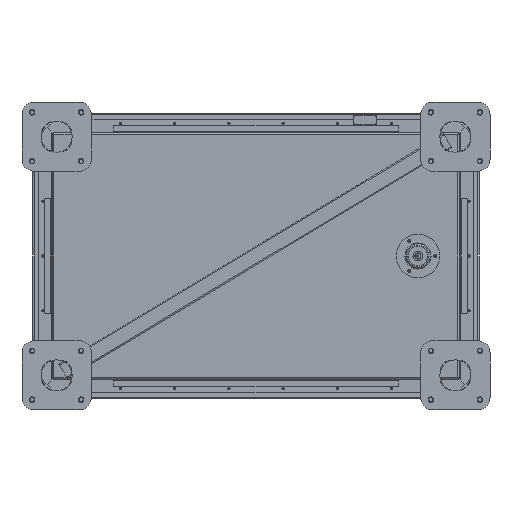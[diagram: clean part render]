
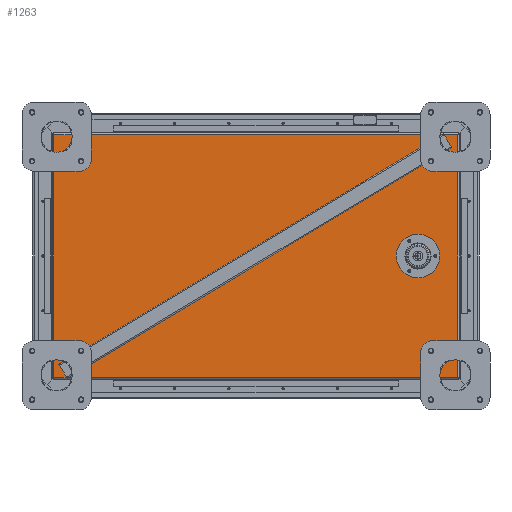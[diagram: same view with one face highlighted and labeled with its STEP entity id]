
A CAD part, front view. The second image highlights one B-rep face of the part: STEP entity #1263.
In plain terms, the highlighted planar face has unit normal (-0.018, -1, 0).
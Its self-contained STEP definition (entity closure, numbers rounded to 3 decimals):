
#459 = EDGE_CURVE ( 'NONE', #35504, #19531, #41902, .T. ) ;
#991 = AXIS2_PLACEMENT_3D ( 'NONE', #50659, #35529, #34823 ) ;
#1263 = ADVANCED_FACE ( 'NONE', ( #58126, #1603, #39860, #25832, #32436 ), #47043, .F. ) ;
#1425 = LINE ( 'NONE', #47701, #47194 ) ;
#1591 = VECTOR ( 'NONE', #56000, 1000. ) ;
#1603 = FACE_BOUND ( 'NONE', #9713, .T. ) ;
#1684 = EDGE_CURVE ( 'NONE', #37093, #34661, #33889, .T. ) ;
#2347 = CIRCLE ( 'NONE', #65434, 2.45 ) ;
#4350 = CIRCLE ( 'NONE', #43858, 30.25 ) ;
#4503 = CARTESIAN_POINT ( 'NONE',  ( 397.445, -70.656, 0. ) ) ;
#6196 = DIRECTION ( 'NONE',  ( 0.017, 1., 0. ) ) ;
#6761 = EDGE_CURVE ( 'NONE', #19531, #35504, #33862, .T. ) ;
#7026 = VERTEX_POINT ( 'NONE', #37485 ) ;
#7302 = DIRECTION ( 'NONE',  ( 1., -0.017, 0. ) ) ;
#7617 = CARTESIAN_POINT ( 'NONE',  ( 442.388, -71.441, 0. ) ) ;
#9713 = EDGE_LOOP ( 'NONE', ( #48377, #11481 ) ) ;
#10424 = CARTESIAN_POINT ( 'NONE',  ( 439.938, -71.398, 0. ) ) ;
#11481 = ORIENTED_EDGE ( 'NONE', *, *, #52406, .T. ) ;
#11828 = DIRECTION ( 'NONE',  ( 0.017, 1., 0. ) ) ;
#13066 = VERTEX_POINT ( 'NONE', #56742 ) ;
#14016 = DIRECTION ( 'NONE',  ( -1., 0.017, 0. ) ) ;
#14225 = ORIENTED_EDGE ( 'NONE', *, *, #6761, .T. ) ;
#16061 = EDGE_LOOP ( 'NONE', ( #34947, #42950 ) ) ;
#16719 = EDGE_CURVE ( 'NONE', #38715, #7026, #16862, .T. ) ;
#16862 = LINE ( 'NONE', #24165, #21104 ) ;
#16867 = CARTESIAN_POINT ( 'NONE',  ( 376.198, -70.285, 36.806 ) ) ;
#18022 = CARTESIAN_POINT ( 'NONE',  ( 373.748, -70.243, -36.806 ) ) ;
#19531 = VERTEX_POINT ( 'NONE', #7617 ) ;
#19947 = CIRCLE ( 'NONE', #44791, 30.25 ) ;
#20921 = VERTEX_POINT ( 'NONE', #21577 ) ;
#21104 = VECTOR ( 'NONE', #29748, 1000. ) ;
#21569 = EDGE_CURVE ( 'NONE', #57460, #42616, #4350, .T. ) ;
#21577 = CARTESIAN_POINT ( 'NONE',  ( -495.57, -55.069, -298. ) ) ;
#21959 = EDGE_CURVE ( 'NONE', #20921, #65442, #41688, .T. ) ;
#22179 = CARTESIAN_POINT ( 'NONE',  ( 367.199, -70.128, 0. ) ) ;
#22327 = ORIENTED_EDGE ( 'NONE', *, *, #49042, .F. ) ;
#22644 = CARTESIAN_POINT ( 'NONE',  ( 376.198, -70.285, -36.806 ) ) ;
#23003 = DIRECTION ( 'NONE',  ( -1., 0.017, 0. ) ) ;
#23607 = CARTESIAN_POINT ( 'NONE',  ( 378.648, -70.328, 36.806 ) ) ;
#24165 = CARTESIAN_POINT ( 'NONE',  ( 499.5, -72.438, 298. ) ) ;
#24888 = DIRECTION ( 'NONE',  ( -1., 0.017, 0. ) ) ;
#25512 = DIRECTION ( 'NONE',  ( 0.017, 1., 0. ) ) ;
#25832 = FACE_BOUND ( 'NONE', #16061, .T. ) ;
#27072 = DIRECTION ( 'NONE',  ( 0., 0., -1. ) ) ;
#27134 = ORIENTED_EDGE ( 'NONE', *, *, #459, .T. ) ;
#28200 = DIRECTION ( 'NONE',  ( -1., 0.017, 0. ) ) ;
#28521 = CARTESIAN_POINT ( 'NONE',  ( 499.5, -72.438, -298. ) ) ;
#28981 = VERTEX_POINT ( 'NONE', #18022 ) ;
#29387 = ORIENTED_EDGE ( 'NONE', *, *, #16719, .F. ) ;
#29748 = DIRECTION ( 'NONE',  ( 1., -0.017, 0. ) ) ;
#30068 = ORIENTED_EDGE ( 'NONE', *, *, #1684, .T. ) ;
#31064 = EDGE_CURVE ( 'NONE', #42616, #57460, #19947, .T. ) ;
#31259 = DIRECTION ( 'NONE',  ( -1., 0.017, 0. ) ) ;
#31487 = CARTESIAN_POINT ( 'NONE',  ( 499.5, -72.438, 298. ) ) ;
#31585 = CARTESIAN_POINT ( 'NONE',  ( 427.69, -71.184, 0. ) ) ;
#32436 = FACE_OUTER_BOUND ( 'NONE', #60584, .T. ) ;
#33735 = AXIS2_PLACEMENT_3D ( 'NONE', #56436, #35991, #24888 ) ;
#33862 = CIRCLE ( 'NONE', #66135, 2.45 ) ;
#33889 = CIRCLE ( 'NONE', #991, 2.45 ) ;
#34647 = CIRCLE ( 'NONE', #35171, 2.45 ) ;
#34661 = VERTEX_POINT ( 'NONE', #23607 ) ;
#34823 = DIRECTION ( 'NONE',  ( -1., 0.017, 0. ) ) ;
#34947 = ORIENTED_EDGE ( 'NONE', *, *, #21569, .T. ) ;
#35171 = AXIS2_PLACEMENT_3D ( 'NONE', #49076, #11828, #28200 ) ;
#35504 = VERTEX_POINT ( 'NONE', #66638 ) ;
#35529 = DIRECTION ( 'NONE',  ( 0.017, 1., 0. ) ) ;
#35991 = DIRECTION ( 'NONE',  ( 0.017, 1., 0. ) ) ;
#36542 = ORIENTED_EDGE ( 'NONE', *, *, #42723, .T. ) ;
#37093 = VERTEX_POINT ( 'NONE', #64764 ) ;
#37485 = CARTESIAN_POINT ( 'NONE',  ( 495.43, -72.367, 298. ) ) ;
#38473 = DIRECTION ( 'NONE',  ( -1., 0.017, 0. ) ) ;
#38715 = VERTEX_POINT ( 'NONE', #57694 ) ;
#39860 = FACE_BOUND ( 'NONE', #57865, .T. ) ;
#41292 = EDGE_CURVE ( 'NONE', #38715, #20921, #1425, .T. ) ;
#41393 = EDGE_CURVE ( 'NONE', #28981, #13066, #34647, .T. ) ;
#41688 = LINE ( 'NONE', #28521, #64902 ) ;
#41902 = CIRCLE ( 'NONE', #33735, 2.45 ) ;
#42616 = VERTEX_POINT ( 'NONE', #31585 ) ;
#42723 = EDGE_CURVE ( 'NONE', #34661, #37093, #67464, .T. ) ;
#42950 = ORIENTED_EDGE ( 'NONE', *, *, #31064, .T. ) ;
#43858 = AXIS2_PLACEMENT_3D ( 'NONE', #58379, #64162, #63714 ) ;
#43912 = DIRECTION ( 'NONE',  ( 0.017, 1., 0. ) ) ;
#44791 = AXIS2_PLACEMENT_3D ( 'NONE', #4503, #57235, #14016 ) ;
#47043 = PLANE ( 'NONE',  #63224 ) ;
#47194 = VECTOR ( 'NONE', #27072, 1000. ) ;
#47701 = CARTESIAN_POINT ( 'NONE',  ( -495.57, -55.069, 298. ) ) ;
#48377 = ORIENTED_EDGE ( 'NONE', *, *, #41393, .T. ) ;
#49042 = EDGE_CURVE ( 'NONE', #7026, #65442, #68925, .T. ) ;
#49076 = CARTESIAN_POINT ( 'NONE',  ( 376.198, -70.285, -36.806 ) ) ;
#49940 = ORIENTED_EDGE ( 'NONE', *, *, #21959, .T. ) ;
#50455 = CARTESIAN_POINT ( 'NONE',  ( 495.43, -72.367, 298. ) ) ;
#50659 = CARTESIAN_POINT ( 'NONE',  ( 376.198, -70.285, 36.806 ) ) ;
#52406 = EDGE_CURVE ( 'NONE', #13066, #28981, #2347, .T. ) ;
#53650 = EDGE_LOOP ( 'NONE', ( #30068, #36542 ) ) ;
#54794 = AXIS2_PLACEMENT_3D ( 'NONE', #16867, #6196, #38473 ) ;
#54915 = DIRECTION ( 'NONE',  ( -1., 0.017, 0. ) ) ;
#56000 = DIRECTION ( 'NONE',  ( 0., 0., -1. ) ) ;
#56436 = CARTESIAN_POINT ( 'NONE',  ( 439.938, -71.398, 0. ) ) ;
#56742 = CARTESIAN_POINT ( 'NONE',  ( 378.648, -70.328, -36.806 ) ) ;
#57235 = DIRECTION ( 'NONE',  ( 0.017, 1., 0. ) ) ;
#57258 = ORIENTED_EDGE ( 'NONE', *, *, #41292, .T. ) ;
#57460 = VERTEX_POINT ( 'NONE', #22179 ) ;
#57694 = CARTESIAN_POINT ( 'NONE',  ( -495.57, -55.069, 298. ) ) ;
#57865 = EDGE_LOOP ( 'NONE', ( #27134, #14225 ) ) ;
#58126 = FACE_BOUND ( 'NONE', #53650, .T. ) ;
#58379 = CARTESIAN_POINT ( 'NONE',  ( 397.445, -70.656, 0. ) ) ;
#60240 = DIRECTION ( 'NONE',  ( 0.017, 1., 0. ) ) ;
#60584 = EDGE_LOOP ( 'NONE', ( #49940, #22327, #29387, #57258 ) ) ;
#63224 = AXIS2_PLACEMENT_3D ( 'NONE', #31487, #25512, #31259 ) ;
#63714 = DIRECTION ( 'NONE',  ( -1., 0.017, 0. ) ) ;
#64162 = DIRECTION ( 'NONE',  ( 0.017, 1., 0. ) ) ;
#64750 = CARTESIAN_POINT ( 'NONE',  ( 495.43, -72.367, -298. ) ) ;
#64764 = CARTESIAN_POINT ( 'NONE',  ( 373.748, -70.243, 36.806 ) ) ;
#64902 = VECTOR ( 'NONE', #7302, 1000. ) ;
#65434 = AXIS2_PLACEMENT_3D ( 'NONE', #22644, #60240, #54915 ) ;
#65442 = VERTEX_POINT ( 'NONE', #64750 ) ;
#66135 = AXIS2_PLACEMENT_3D ( 'NONE', #10424, #43912, #23003 ) ;
#66638 = CARTESIAN_POINT ( 'NONE',  ( 437.489, -71.355, 0. ) ) ;
#67464 = CIRCLE ( 'NONE', #54794, 2.45 ) ;
#68925 = LINE ( 'NONE', #50455, #1591 ) ;
